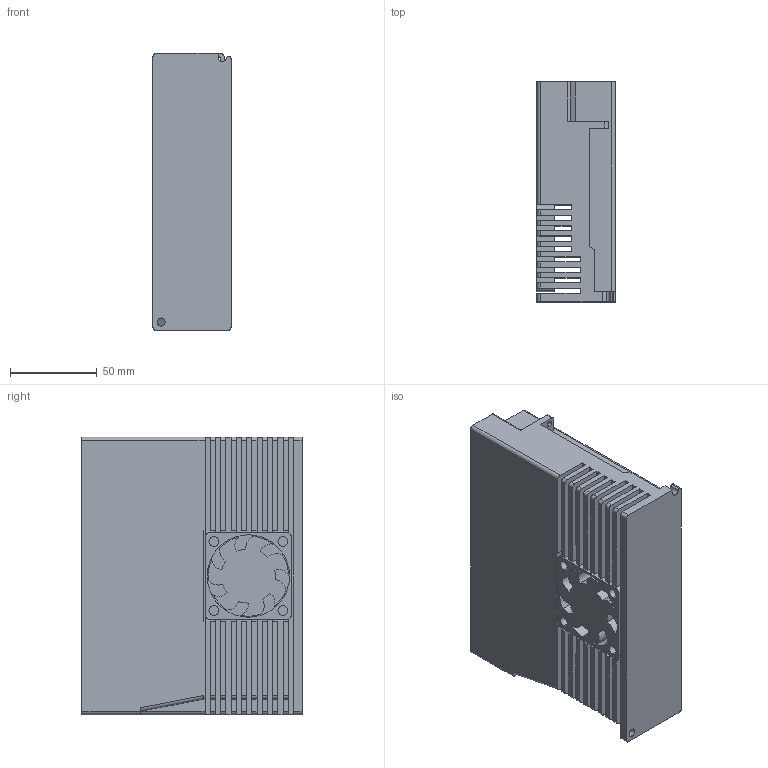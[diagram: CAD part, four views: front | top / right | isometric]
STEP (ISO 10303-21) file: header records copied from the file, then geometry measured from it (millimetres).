
FILE_DESCRIPTION (( 'STEP AP214' ), '1' );
FILE_NAME ('EXD2380MB.STEP', '2021-04-07T07:27:43', ( '' ), ( '' ), 'SwSTEP 2.0', 'SolidWorks 2017', '' );
FILE_SCHEMA (( 'AUTOMOTIVE_DESIGN' ));
Length unit declared in the file: millimetre
Products named in the file (1): EXD2380MB
Bounding box: 45 x 127 x 160 mm (x, y, z)
Volume: 786261.5 mm3; surface area: 121636 mm2
Topology: 2 solids, 2 shells, 440 faces, 1240 edges, 814 vertices
Faces by surface type: plane 322, cylinder 116, cone 2
Entity records: 14258 total; most frequent: CARTESIAN_POINT 2499, ORIENTED_EDGE 2476, DIRECTION 2351, EDGE_CURVE 1238, VECTOR 1003, LINE 1003, VERTEX_POINT 814, AXIS2_PLACEMENT_3D 674
